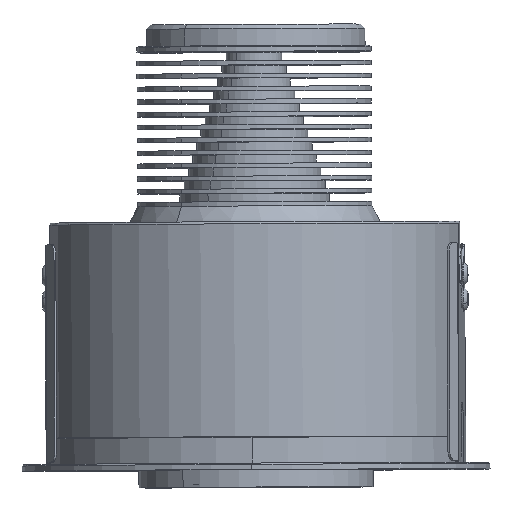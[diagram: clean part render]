
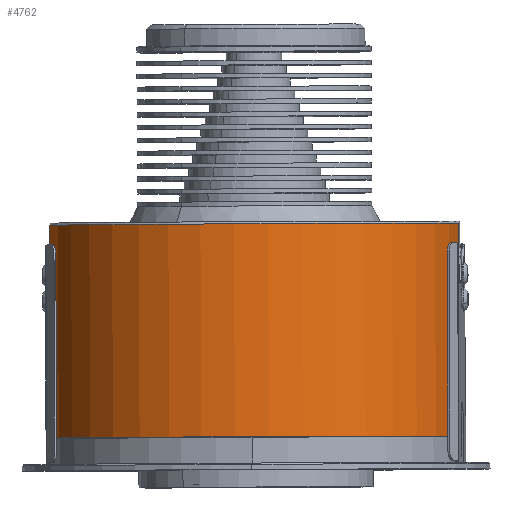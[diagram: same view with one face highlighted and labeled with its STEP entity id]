
A CAD part, top view. The second image highlights one B-rep face of the part: STEP entity #4762.
In plain terms, the highlighted cylindrical face has radius 48.5 mm (diameter 97 mm), a partial arc.
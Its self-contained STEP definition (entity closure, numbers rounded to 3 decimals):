
#1 = EDGE_CURVE ( 'NONE', #5473, #3668, #665, .T. ) ;
#344 = CARTESIAN_POINT ( 'NONE',  ( 8.21, 0., -47.8 ) ) ;
#371 = DIRECTION ( 'NONE',  ( 0., 0., -1. ) ) ;
#398 = DIRECTION ( 'NONE',  ( 0., 0., -1. ) ) ;
#665 = CIRCLE ( 'NONE', #2058, 48.5 ) ;
#933 = ORIENTED_EDGE ( 'NONE', *, *, #7671, .T. ) ;
#1002 = CYLINDRICAL_SURFACE ( 'NONE', #5234, 48.5 ) ;
#1019 = EDGE_CURVE ( 'NONE', #4949, #3668, #5760, .T. ) ;
#1237 = VERTEX_POINT ( 'NONE', #5017 ) ;
#1381 = VECTOR ( 'NONE', #1645, 1000. ) ;
#1386 = ORIENTED_EDGE ( 'NONE', *, *, #1019, .T. ) ;
#1564 = FACE_OUTER_BOUND ( 'NONE', #6333, .T. ) ;
#1645 = DIRECTION ( 'NONE',  ( 0., 1., 0. ) ) ;
#1733 = LINE ( 'NONE', #344, #1381 ) ;
#2040 = VECTOR ( 'NONE', #7816, 1000. ) ;
#2058 = AXIS2_PLACEMENT_3D ( 'NONE', #6475, #3700, #371 ) ;
#2304 = ORIENTED_EDGE ( 'NONE', *, *, #1, .F. ) ;
#3260 = CIRCLE ( 'NONE', #7374, 48.5 ) ;
#3534 = DIRECTION ( 'NONE',  ( 0., -1., 0. ) ) ;
#3668 = VERTEX_POINT ( 'NONE', #8340 ) ;
#3700 = DIRECTION ( 'NONE',  ( 0., -1., 0. ) ) ;
#3941 = CARTESIAN_POINT ( 'NONE',  ( 8.21, 0., 47.8 ) ) ;
#4201 = CARTESIAN_POINT ( 'NONE',  ( 0., 0., 0. ) ) ;
#4762 = ADVANCED_FACE ( 'NONE', ( #1564 ), #1002, .T. ) ;
#4949 = VERTEX_POINT ( 'NONE', #7845 ) ;
#5017 = CARTESIAN_POINT ( 'NONE',  ( 8.21, 55.8, -47.8 ) ) ;
#5234 = AXIS2_PLACEMENT_3D ( 'NONE', #4201, #6180, #398 ) ;
#5235 = EDGE_CURVE ( 'NONE', #5473, #1237, #1733, .T. ) ;
#5473 = VERTEX_POINT ( 'NONE', #6021 ) ;
#5760 = LINE ( 'NONE', #3941, #2040 ) ;
#6021 = CARTESIAN_POINT ( 'NONE',  ( 8.21, 6., -47.8 ) ) ;
#6070 = CARTESIAN_POINT ( 'NONE',  ( 0., 55.8, 0. ) ) ;
#6180 = DIRECTION ( 'NONE',  ( 0., -1., 0. ) ) ;
#6333 = EDGE_LOOP ( 'NONE', ( #933, #1386, #2304, #7944 ) ) ;
#6475 = CARTESIAN_POINT ( 'NONE',  ( 0., 6., 0. ) ) ;
#6801 = DIRECTION ( 'NONE',  ( 0., 0., -1. ) ) ;
#7374 = AXIS2_PLACEMENT_3D ( 'NONE', #6070, #3534, #6801 ) ;
#7671 = EDGE_CURVE ( 'NONE', #1237, #4949, #3260, .T. ) ;
#7816 = DIRECTION ( 'NONE',  ( 0., -1., 0. ) ) ;
#7845 = CARTESIAN_POINT ( 'NONE',  ( 8.21, 55.8, 47.8 ) ) ;
#7944 = ORIENTED_EDGE ( 'NONE', *, *, #5235, .T. ) ;
#8340 = CARTESIAN_POINT ( 'NONE',  ( 8.21, 6., 47.8 ) ) ;
